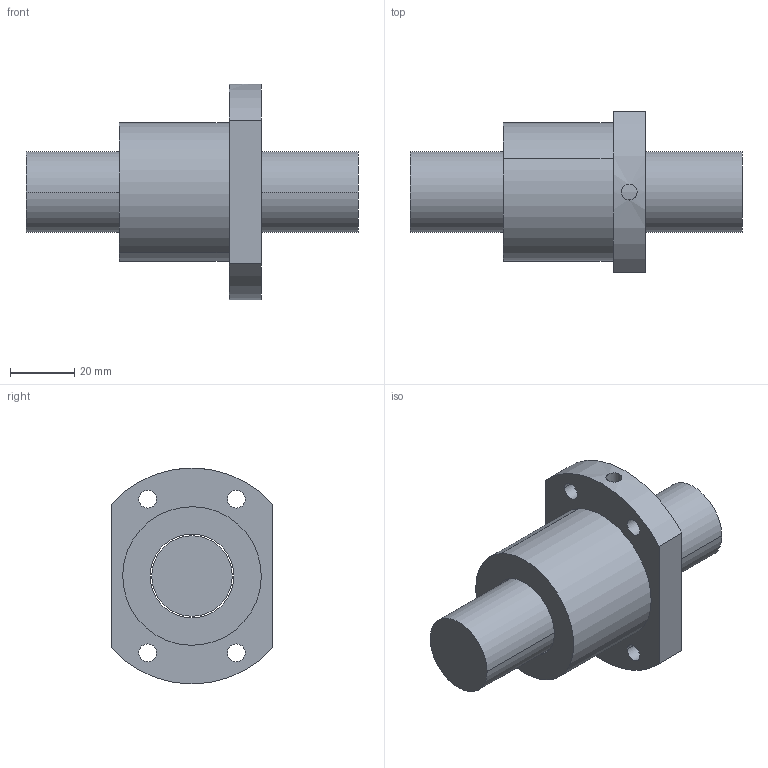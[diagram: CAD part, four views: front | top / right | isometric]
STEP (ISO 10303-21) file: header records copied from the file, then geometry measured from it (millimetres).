
FILE_DESCRIPTION(('CATIA V5 STEP Exchange'),'2;1');
FILE_NAME('C:\Users\aa\Documents\이댈\볼스크류\SFB\완성품\SFB2505D.stp','2019-07-25T00:38:48+00:00',('none'),('none'),'CATIA Version 5 Release 20 SP 7 (IN-10)','CATIA V5 STEP AP203','none');
FILE_SCHEMA(('CONFIG_CONTROL_DESIGN'));
Length unit declared in the file: millimetre
Products named in the file (1): SFB2505D
Bounding box: 103 x 50 x 67 mm (x, y, z)
Volume: 105291.8 mm3; surface area: 25009.7 mm2
Topology: 2 solids, 2 shells, 25 faces, 60 edges, 40 vertices
Faces by surface type: cylinder 18, plane 7
Entity records: 775 total; most frequent: CARTESIAN_POINT 167, ORIENTED_EDGE 120, DIRECTION 88, EDGE_CURVE 60, AXIS2_PLACEMENT_3D 49, VERTEX_POINT 40, EDGE_LOOP 38, CIRCLE 32
